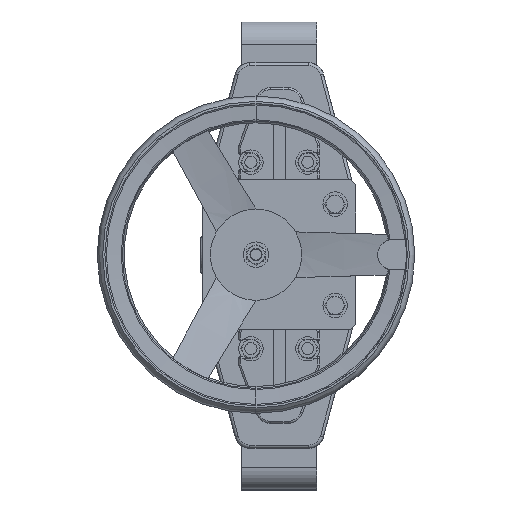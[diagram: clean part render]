
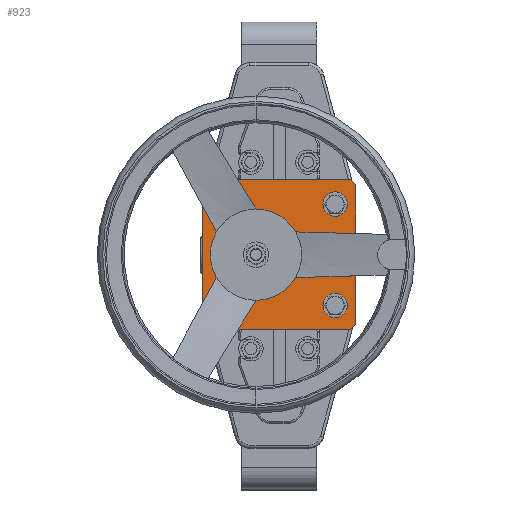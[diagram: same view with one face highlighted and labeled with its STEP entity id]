
A CAD part, top view. The second image highlights one B-rep face of the part: STEP entity #923.
In plain terms, the highlighted planar face has unit normal (0, 0, 1).
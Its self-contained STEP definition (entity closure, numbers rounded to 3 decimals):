
#923=ADVANCED_FACE('',(#2733,#2734,#2735,#2736,#2737,#2738),#2739,.T.);
#2733=FACE_BOUND('',#9693,.T.);
#2734=FACE_BOUND('',#9694,.T.);
#2735=FACE_OUTER_BOUND('',#9695,.T.);
#2736=FACE_BOUND('',#9696,.T.);
#2737=FACE_BOUND('',#9697,.T.);
#2738=FACE_BOUND('',#9698,.T.);
#2739=PLANE('',#9699);
#9693=EDGE_LOOP('',(#17832,#17833));
#9694=EDGE_LOOP('',(#17834,#17835));
#9695=EDGE_LOOP('',(#17836,#17837,#17838,#17839,#17840,#17841,#17842,#17843));
#9696=EDGE_LOOP('',(#17844,#17845,#17846));
#9697=EDGE_LOOP('',(#17847,#17848,#17849));
#9698=EDGE_LOOP('',(#17850,#17851));
#9699=AXIS2_PLACEMENT_3D('',#17852,#17853,#17854);
#17832=ORIENTED_EDGE('',*,*,#23351,.T.);
#17833=ORIENTED_EDGE('',*,*,#24935,.T.);
#17834=ORIENTED_EDGE('',*,*,#23577,.T.);
#17835=ORIENTED_EDGE('',*,*,#24936,.T.);
#17836=ORIENTED_EDGE('',*,*,#24937,.T.);
#17837=ORIENTED_EDGE('',*,*,#24938,.T.);
#17838=ORIENTED_EDGE('',*,*,#24939,.T.);
#17839=ORIENTED_EDGE('',*,*,#24940,.T.);
#17840=ORIENTED_EDGE('',*,*,#24941,.T.);
#17841=ORIENTED_EDGE('',*,*,#24942,.T.);
#17842=ORIENTED_EDGE('',*,*,#24825,.T.);
#17843=ORIENTED_EDGE('',*,*,#24943,.T.);
#17844=ORIENTED_EDGE('',*,*,#24944,.F.);
#17845=ORIENTED_EDGE('',*,*,#24945,.F.);
#17846=ORIENTED_EDGE('',*,*,#23573,.F.);
#17847=ORIENTED_EDGE('',*,*,#23647,.F.);
#17848=ORIENTED_EDGE('',*,*,#23646,.F.);
#17849=ORIENTED_EDGE('',*,*,#24946,.F.);
#17850=ORIENTED_EDGE('',*,*,#24947,.F.);
#17851=ORIENTED_EDGE('',*,*,#23693,.F.);
#17852=CARTESIAN_POINT('',(-75.5,-74.,685.));
#17853=DIRECTION('',(0.,0.,1.));
#17854=DIRECTION('',(1.,0.,0.));
#23351=EDGE_CURVE('',#26771,#26768,#26772,.T.);
#23573=EDGE_CURVE('',#27211,#27214,#27215,.T.);
#23577=EDGE_CURVE('',#27222,#27219,#27223,.T.);
#23646=EDGE_CURVE('',#27353,#27356,#27357,.T.);
#23647=EDGE_CURVE('',#27356,#27358,#27359,.T.);
#23693=EDGE_CURVE('',#27446,#27449,#27450,.T.);
#24825=EDGE_CURVE('',#29416,#29414,#29417,.T.);
#24935=EDGE_CURVE('',#26768,#26771,#29576,.T.);
#24936=EDGE_CURVE('',#27219,#27222,#29577,.T.);
#24937=EDGE_CURVE('',#29578,#29579,#29580,.T.);
#24938=EDGE_CURVE('',#29579,#29581,#29582,.T.);
#24939=EDGE_CURVE('',#29581,#29583,#29584,.T.);
#24940=EDGE_CURVE('',#29583,#29585,#29586,.T.);
#24941=EDGE_CURVE('',#29585,#29587,#29588,.T.);
#24942=EDGE_CURVE('',#29587,#29416,#29589,.T.);
#24943=EDGE_CURVE('',#29414,#29578,#29590,.T.);
#24944=EDGE_CURVE('',#29591,#27211,#29592,.T.);
#24945=EDGE_CURVE('',#27214,#29591,#29593,.T.);
#24946=EDGE_CURVE('',#27358,#27353,#29594,.T.);
#24947=EDGE_CURVE('',#27449,#27446,#29595,.T.);
#26768=VERTEX_POINT('',#31963);
#26771=VERTEX_POINT('',#31967);
#26772=CIRCLE('',#31968,12.);
#27211=VERTEX_POINT('',#32634);
#27214=VERTEX_POINT('',#32638);
#27215=CIRCLE('',#32639,12.);
#27219=VERTEX_POINT('',#32644);
#27222=VERTEX_POINT('',#32648);
#27223=CIRCLE('',#32649,12.);
#27353=VERTEX_POINT('',#32840);
#27356=VERTEX_POINT('',#32844);
#27357=CIRCLE('',#32845,12.);
#27358=VERTEX_POINT('',#32846);
#27359=CIRCLE('',#32847,12.);
#27446=VERTEX_POINT('',#32963);
#27449=VERTEX_POINT('',#32967);
#27450=CIRCLE('',#32968,20.);
#29414=VERTEX_POINT('',#37742);
#29416=VERTEX_POINT('',#37745);
#29417=LINE('',#37746,#37747);
#29576=CIRCLE('',#38083,12.);
#29577=CIRCLE('',#38084,12.);
#29578=VERTEX_POINT('',#38085);
#29579=VERTEX_POINT('',#38086);
#29580=LINE('',#38087,#38088);
#29581=VERTEX_POINT('',#38089);
#29582=LINE('',#38090,#38091);
#29583=VERTEX_POINT('',#38092);
#29584=LINE('',#38093,#38094);
#29585=VERTEX_POINT('',#38095);
#29586=LINE('',#38096,#38097);
#29587=VERTEX_POINT('',#38098);
#29588=LINE('',#38099,#38100);
#29589=LINE('',#38101,#38102);
#29590=LINE('',#38103,#38104);
#29591=VERTEX_POINT('',#38105);
#29592=CIRCLE('',#38106,12.);
#29593=CIRCLE('',#38107,12.);
#29594=CIRCLE('',#38108,12.);
#29595=CIRCLE('',#38109,20.);
#31963=CARTESIAN_POINT('',(-55.,62.,685.));
#31967=CARTESIAN_POINT('',(-55.,38.,685.));
#31968=AXIS2_PLACEMENT_3D('',#41919,#41920,#41921);
#32634=CARTESIAN_POINT('',(55.,62.,685.));
#32638=CARTESIAN_POINT('',(55.,38.,685.));
#32639=AXIS2_PLACEMENT_3D('',#42343,#42344,#42345);
#32644=CARTESIAN_POINT('',(55.,-62.,685.));
#32648=CARTESIAN_POINT('',(55.,-38.,685.));
#32649=AXIS2_PLACEMENT_3D('',#42351,#42352,#42353);
#32840=CARTESIAN_POINT('',(-55.,-62.,685.));
#32844=CARTESIAN_POINT('',(-43.,-50.,685.));
#32845=AXIS2_PLACEMENT_3D('',#42481,#42482,#42483);
#32846=CARTESIAN_POINT('',(-55.,-38.,685.));
#32847=AXIS2_PLACEMENT_3D('',#42484,#42485,#42486);
#32963=CARTESIAN_POINT('',(-43.,0.,685.));
#32967=CARTESIAN_POINT('',(-3.,0.,685.));
#32968=AXIS2_PLACEMENT_3D('',#42573,#42574,#42575);
#37742=CARTESIAN_POINT('',(75.5,69.,685.));
#37745=CARTESIAN_POINT('',(75.5,-69.,685.));
#37746=CARTESIAN_POINT('',(75.5,-74.,685.));
#37747=VECTOR('',#44374,1000.);
#38083=AXIS2_PLACEMENT_3D('',#44566,#44567,#44568);
#38084=AXIS2_PLACEMENT_3D('',#44569,#44570,#44571);
#38085=CARTESIAN_POINT('',(70.5,74.,685.));
#38086=CARTESIAN_POINT('',(-70.5,74.,685.));
#38087=CARTESIAN_POINT('',(75.5,74.,685.));
#38088=VECTOR('',#44572,1000.);
#38089=CARTESIAN_POINT('',(-75.5,69.,685.));
#38090=CARTESIAN_POINT('',(-147.,-2.5,685.));
#38091=VECTOR('',#44573,1000.);
#38092=CARTESIAN_POINT('',(-75.5,-69.,685.));
#38093=CARTESIAN_POINT('',(-75.5,74.,685.));
#38094=VECTOR('',#44574,1000.);
#38095=CARTESIAN_POINT('',(-70.5,-74.,685.));
#38096=CARTESIAN_POINT('',(-73.,-71.5,685.));
#38097=VECTOR('',#44575,1000.);
#38098=CARTESIAN_POINT('',(70.5,-74.,685.));
#38099=CARTESIAN_POINT('',(-75.5,-74.,685.));
#38100=VECTOR('',#44576,1000.);
#38101=CARTESIAN_POINT('',(-2.5,-147.,685.));
#38102=VECTOR('',#44577,1000.);
#38103=CARTESIAN_POINT('',(71.5,73.,685.));
#38104=VECTOR('',#44578,1000.);
#38105=CARTESIAN_POINT('',(67.,50.,685.));
#38106=AXIS2_PLACEMENT_3D('',#44579,#44580,#44581);
#38107=AXIS2_PLACEMENT_3D('',#44582,#44583,#44584);
#38108=AXIS2_PLACEMENT_3D('',#44585,#44586,#44587);
#38109=AXIS2_PLACEMENT_3D('',#44588,#44589,#44590);
#41919=CARTESIAN_POINT('',(-55.,50.,685.));
#41920=DIRECTION('',(0.,0.,-1.));
#41921=DIRECTION('',(0.,-1.,0.));
#42343=CARTESIAN_POINT('',(55.,50.,685.));
#42344=DIRECTION('',(0.,0.,1.));
#42345=DIRECTION('',(1.,0.,0.));
#42351=CARTESIAN_POINT('',(55.,-50.,685.));
#42352=DIRECTION('',(0.,0.,-1.));
#42353=DIRECTION('',(0.,1.,0.));
#42481=CARTESIAN_POINT('',(-55.,-50.,685.));
#42482=DIRECTION('',(0.,0.,1.));
#42483=DIRECTION('',(1.,0.,0.));
#42484=CARTESIAN_POINT('',(-55.,-50.,685.));
#42485=DIRECTION('',(0.,0.,1.));
#42486=DIRECTION('',(1.,0.,0.));
#42573=CARTESIAN_POINT('',(-23.,0.,685.));
#42574=DIRECTION('',(0.,0.,1.));
#42575=DIRECTION('',(1.,0.,0.));
#44374=DIRECTION('',(0.,1.,0.));
#44566=CARTESIAN_POINT('',(-55.,50.,685.));
#44567=DIRECTION('',(0.,0.,-1.));
#44568=DIRECTION('',(0.,-1.,0.));
#44569=CARTESIAN_POINT('',(55.,-50.,685.));
#44570=DIRECTION('',(0.,0.,-1.));
#44571=DIRECTION('',(0.,1.,0.));
#44572=DIRECTION('',(-1.,0.,0.));
#44573=DIRECTION('',(-0.707,-0.707,0.));
#44574=DIRECTION('',(0.,-1.,0.));
#44575=DIRECTION('',(0.707,-0.707,0.));
#44576=DIRECTION('',(1.,0.,0.));
#44577=DIRECTION('',(0.707,0.707,0.));
#44578=DIRECTION('',(-0.707,0.707,0.));
#44579=CARTESIAN_POINT('',(55.,50.,685.));
#44580=DIRECTION('',(0.,0.,1.));
#44581=DIRECTION('',(1.,0.,0.));
#44582=CARTESIAN_POINT('',(55.,50.,685.));
#44583=DIRECTION('',(0.,0.,1.));
#44584=DIRECTION('',(1.,0.,0.));
#44585=CARTESIAN_POINT('',(-55.,-50.,685.));
#44586=DIRECTION('',(0.,0.,1.));
#44587=DIRECTION('',(1.,0.,0.));
#44588=CARTESIAN_POINT('',(-23.,0.,685.));
#44589=DIRECTION('',(0.,0.,1.));
#44590=DIRECTION('',(1.,0.,0.));
